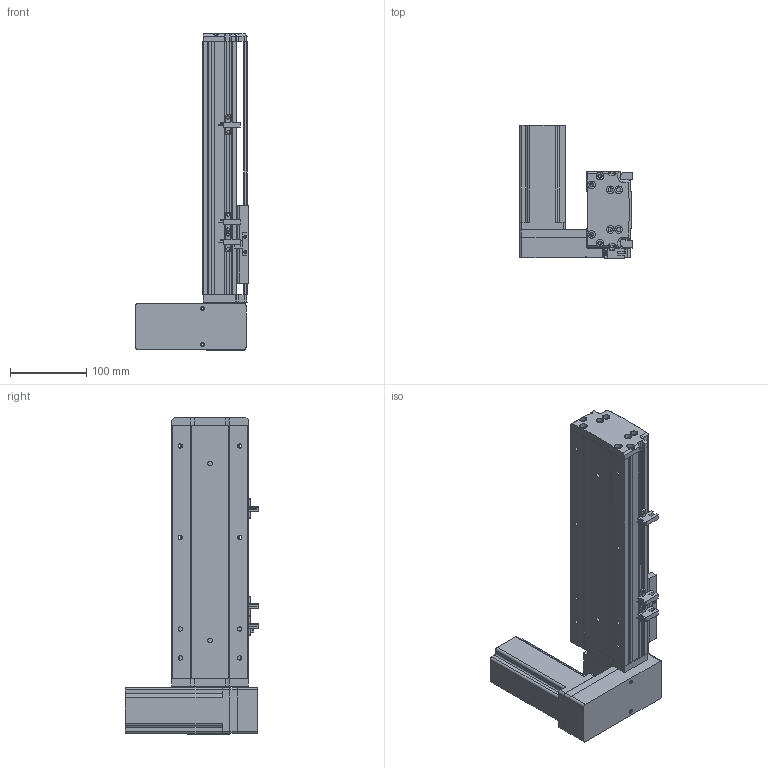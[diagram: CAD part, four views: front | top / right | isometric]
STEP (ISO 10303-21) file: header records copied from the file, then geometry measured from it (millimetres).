
FILE_DESCRIPTION (( 'STEP AP214' ), '1' );
FILE_NAME ('KSD100B-S150-MRD-CM.STEP', '2019-11-11T07:24:13', ( '微软用户' ), ( '微软中国' ), 'SwSTEP 2.0', 'SolidWorks 2014', '' );
FILE_SCHEMA (( 'AUTOMOTIVE_DESIGN' ));
Length unit declared in the file: millimetre
Products named in the file (12): U倰嫖萇EEㄜSX672; 覜茼え100遵圉猾敕; 100宽防尘板150行程-同步带; 100宽马达安装板同步带右; 100宽同步带安装板半封闭; 100宽马达安装板同步带; 100遵傷啣肮祭湍; 100宽底板半封闭同步带150行程; KSD100B-S150-MRD-CM; 悵誘欶奻狟殏; 100宽马达安装板连板上下折丝杆同步带; 台达ECMA－C20604AS伺服电机
Assembly tree (13 placements, depth 2):
  KSD100B-S150-MRD-CM
    100宽底板半封闭同步带150行程
    100遵傷啣肮祭湍
    100宽马达安装板同步带
    100宽同步带安装板半封闭
    100宽马达安装板同步带右
    100宽防尘板150行程-同步带
    覜茼え100遵圉猾敕
    U倰嫖萇EEㄜSX672  x3
    台达ECMA－C20604AS伺服电机
    100宽马达安装板连板上下折丝杆同步带
    悵誘欶奻狟殏
Bounding box: 148 x 174.7 x 415 mm (x, y, z)
Volume: 1404974 mm3; surface area: 418182.2 mm2
Topology: 14 solids, 14 shells, 1249 faces, 3480 edges, 2247 vertices
Faces by surface type: cylinder 599, plane 567, cone 83
Entity records: 42541 total; most frequent: CARTESIAN_POINT 7480, DIRECTION 5972, ORIENTED_EDGE 5700, EDGE_CURVE 2850, AXIS2_PLACEMENT_3D 2157, VERTEX_POINT 1871, VECTOR 1658, LINE 1658
